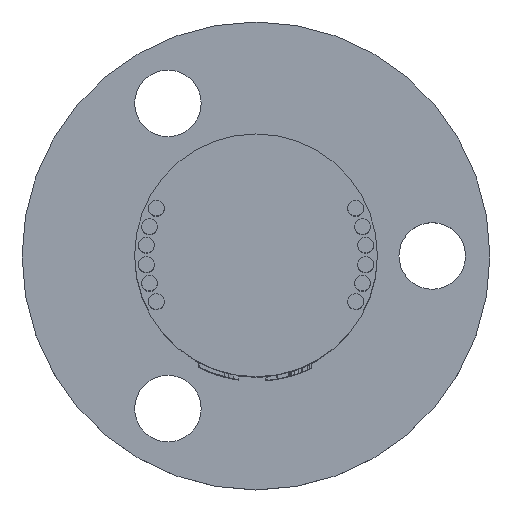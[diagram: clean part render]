
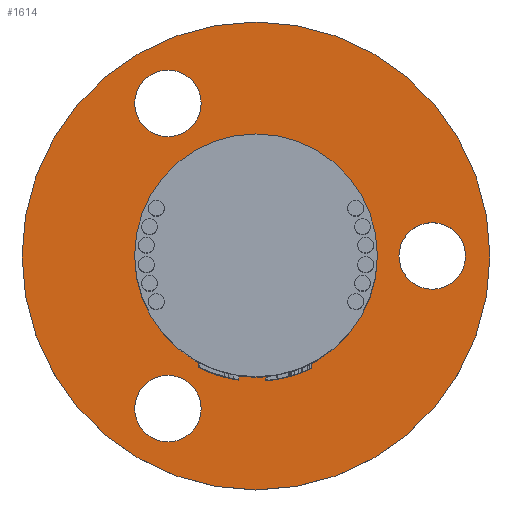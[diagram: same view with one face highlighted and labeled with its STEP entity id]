
A CAD part, top view. The second image highlights one B-rep face of the part: STEP entity #1614.
In plain terms, the highlighted planar face has unit normal (0, 0, 1).
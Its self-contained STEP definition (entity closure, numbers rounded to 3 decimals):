
#189=FACE_BOUND('',#3015,.T.);
#190=FACE_BOUND('',#3016,.T.);
#191=FACE_BOUND('',#3017,.T.);
#192=FACE_BOUND('',#3018,.T.);
#193=FACE_BOUND('',#3019,.T.);
#289=CIRCLE('',#10807,6.2);
#320=CIRCLE('',#10866,11.95);
#321=CIRCLE('',#10868,1.7);
#322=CIRCLE('',#10870,1.7);
#323=CIRCLE('',#10872,1.7);
#1614=ADVANCED_FACE('',(#189,#190,#191,#192,#193),#1943,.T.);
#1943=PLANE('',#10874);
#3015=EDGE_LOOP('',(#5417));
#3016=EDGE_LOOP('',(#5418));
#3017=EDGE_LOOP('',(#5419));
#3018=EDGE_LOOP('',(#5420));
#3019=EDGE_LOOP('',(#5421));
#5417=ORIENTED_EDGE('',*,*,#8648,.F.);
#5418=ORIENTED_EDGE('',*,*,#8682,.F.);
#5419=ORIENTED_EDGE('',*,*,#8681,.F.);
#5420=ORIENTED_EDGE('',*,*,#8680,.F.);
#5421=ORIENTED_EDGE('',*,*,#8679,.F.);
#7190=VERTEX_POINT('',#21293);
#7221=VERTEX_POINT('',#21383);
#7222=VERTEX_POINT('',#21386);
#7223=VERTEX_POINT('',#21389);
#7224=VERTEX_POINT('',#21392);
#8648=EDGE_CURVE('',#7190,#7190,#289,.T.);
#8679=EDGE_CURVE('',#7221,#7221,#320,.T.);
#8680=EDGE_CURVE('',#7222,#7222,#321,.T.);
#8681=EDGE_CURVE('',#7223,#7223,#322,.T.);
#8682=EDGE_CURVE('',#7224,#7224,#323,.T.);
#10807=AXIS2_PLACEMENT_3D('',#21292,#11878,#11879);
#10866=AXIS2_PLACEMENT_3D('',#21382,#11996,#11997);
#10868=AXIS2_PLACEMENT_3D('',#21385,#12000,#12001);
#10870=AXIS2_PLACEMENT_3D('',#21388,#12004,#12005);
#10872=AXIS2_PLACEMENT_3D('',#21391,#12008,#12009);
#10874=AXIS2_PLACEMENT_3D('',#21394,#12012,#12013);
#11878=DIRECTION('',(0.,0.,1.));
#11879=DIRECTION('',(1.,0.,0.));
#11996=DIRECTION('',(0.,0.,-1.));
#11997=DIRECTION('',(1.,0.,0.));
#12000=DIRECTION('',(0.,0.,1.));
#12001=DIRECTION('',(1.,0.,0.));
#12004=DIRECTION('',(0.,0.,1.));
#12005=DIRECTION('',(1.,0.,0.));
#12008=DIRECTION('',(0.,0.,1.));
#12009=DIRECTION('',(1.,0.,0.));
#12012=DIRECTION('',(0.,0.,1.));
#12013=DIRECTION('',(1.,0.,0.));
#21292=CARTESIAN_POINT('',(0.,0.,5.5));
#21293=CARTESIAN_POINT('',(6.2,0.,5.5));
#21382=CARTESIAN_POINT('',(0.,0.,5.5));
#21383=CARTESIAN_POINT('',(11.95,0.,5.5));
#21385=CARTESIAN_POINT('',(-4.5,-7.794,5.5));
#21386=CARTESIAN_POINT('',(-2.8,-7.794,5.5));
#21388=CARTESIAN_POINT('',(-4.5,7.794,5.5));
#21389=CARTESIAN_POINT('',(-2.8,7.794,5.5));
#21391=CARTESIAN_POINT('',(9.,0.,5.5));
#21392=CARTESIAN_POINT('',(10.7,0.,5.5));
#21394=CARTESIAN_POINT('',(0.,0.,5.5));
